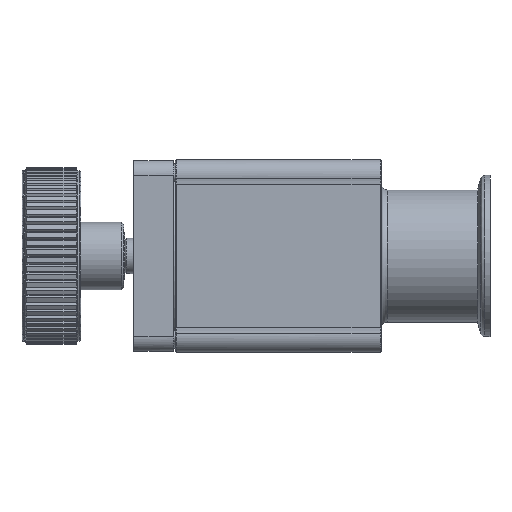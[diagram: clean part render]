
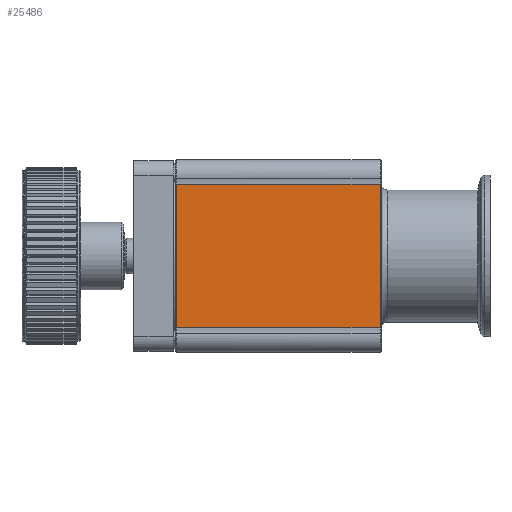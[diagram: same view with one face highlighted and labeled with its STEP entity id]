
A CAD part, left-side view. The second image highlights one B-rep face of the part: STEP entity #25486.
In plain terms, the highlighted free-form (B-spline) face has degree [1, 1] with [2, 2] control points.
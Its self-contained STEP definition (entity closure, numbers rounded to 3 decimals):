
#24880=CARTESIAN_POINT('V87',(-32.5,
   103.8,-24.485));
#24881=VERTEX_POINT('V87',#24880);
#24924=CARTESIAN_POINT('V86',(-32.5,
   103.8,24.485));
#24925=VERTEX_POINT('V86',#24924);
#24931=CARTESIAN_POINT('E117',(-32.5,
   103.8,24.485));
#24932=CARTESIAN_POINT('E117',(-32.5,
   103.8,-24.485));
#24933=B_SPLINE_CURVE_WITH_KNOTS('E117',1,(#24931,#24932),
   .POLYLINE_FORM.,.F.,.U.,(2,2),(2.0,88.568),
   .UNSPECIFIED.);
#24934=EDGE_CURVE('E117',#24925,#24881,#24933,.T.);
#25440=CARTESIAN_POINT('V85',(-32.5,34.4,
   24.485));
#25441=VERTEX_POINT('V85',#25440);
#25455=CARTESIAN_POINT('E116',(-32.5,
   34.4,24.485));
#25456=CARTESIAN_POINT('E116',(-32.5,
   103.8,24.485));
#25457=B_SPLINE_CURVE_WITH_KNOTS('E116',1,(#25455,#25456),
   .POLYLINE_FORM.,.F.,.U.,(2,2),(2.202,
   37.19),.UNSPECIFIED.);
#25458=EDGE_CURVE('E116',#25441,#24925,#25457,.T.);
#25465=CARTESIAN_POINT('F38',(-32.5,33.0,
   -25.742));
#25466=CARTESIAN_POINT('F38',(-32.5,33.0,
   25.742));
#25467=CARTESIAN_POINT('F38',(-32.5,
   107.7,-25.742));
#25468=CARTESIAN_POINT('F38',(-32.5,
   107.7,25.742));
#25469=B_SPLINE_SURFACE_WITH_KNOTS('F38',1,1,((#25465,#25467),(
   #25466,#25468)),.PLANE_SURF.,.F.,.F.,.U.,(2,2),(2,2),(0.0,1.0),
   (0.699,2.15),.UNSPECIFIED.);
#25470=CARTESIAN_POINT('V84',(-32.5,34.4,
   -24.485));
#25471=VERTEX_POINT('V84',#25470);
#25472=CARTESIAN_POINT('E115',(-32.5,
   34.4,-24.485));
#25473=CARTESIAN_POINT('E115',(-32.5,
   34.4,24.485));
#25474=B_SPLINE_CURVE_WITH_KNOTS('E115',1,(#25472,#25473),
   .POLYLINE_FORM.,.F.,.U.,(2,2),(2.0,88.568),
   .UNSPECIFIED.);
#25475=EDGE_CURVE('E115',#25471,#25441,#25474,.T.);
#25476=ORIENTED_EDGE('E115',*,*,#25475,.F.);
#25477=CARTESIAN_POINT('E118',(-32.5,
   103.8,-24.485));
#25478=CARTESIAN_POINT('E118',(-32.5,
   34.4,-24.485));
#25479=B_SPLINE_CURVE_WITH_KNOTS('E118',1,(#25477,#25478),
   .POLYLINE_FORM.,.F.,.U.,(2,2),(2.202,
   37.19),.UNSPECIFIED.);
#25480=EDGE_CURVE('E118',#24881,#25471,#25479,.T.);
#25481=ORIENTED_EDGE('E118',*,*,#25480,.F.);
#25482=ORIENTED_EDGE('E117',*,*,#24934,.F.);
#25483=ORIENTED_EDGE('E116',*,*,#25458,.F.);
#25484=EDGE_LOOP('F38',(#25476,#25481,#25482,#25483));
#25485=FACE_OUTER_BOUND('F38',#25484,.F.);
#25486=ADVANCED_FACE('F38',(#25485),#25469,.T.);
